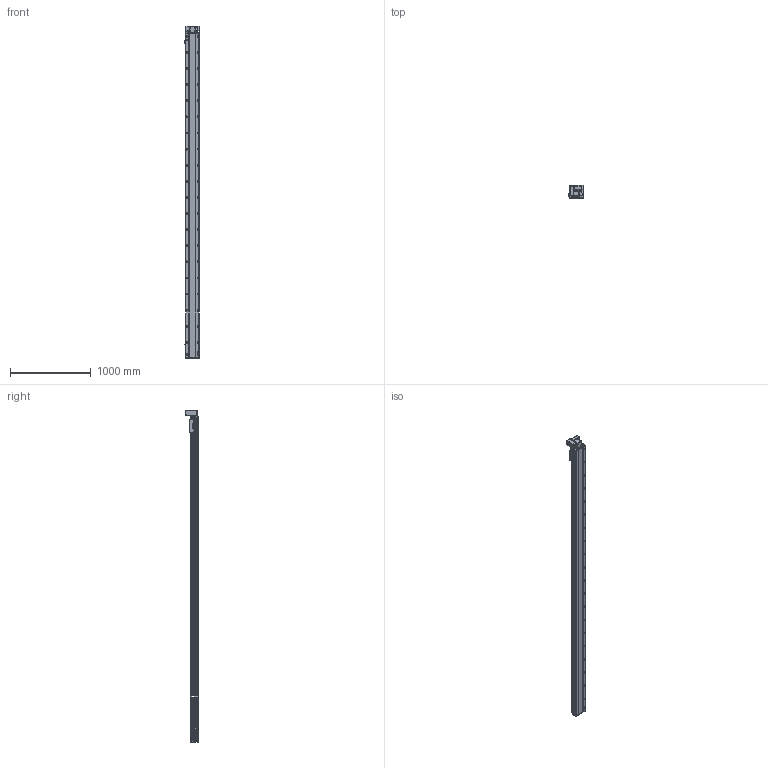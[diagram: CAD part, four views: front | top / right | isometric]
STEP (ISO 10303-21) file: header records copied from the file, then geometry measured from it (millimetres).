
FILE_DESCRIPTION (( 'STEP AP214' ), '1' );
FILE_NAME ('RTB17S-XX-3750-LW-M40-C4.STEP', '2025-12-11T07:26:09', ( '' ), ( '' ), 'SwSTEP 2.0', 'SolidWorks 2018', '' );
FILE_SCHEMA (( 'AUTOMOTIVE_DESIGN' ));
Length unit declared in the file: millimetre
Products named in the file (14): RTB17-R-011菁釱^RTB17S-XX-XX-LW-M40-C4; RTH13-BL-012覜茼え俋离^RTB17S-XX-XX-LW-M40-C4; RTB17S-L-007奻裔^RTB17S-XX-XX-LW-M40-C4; RTB14-L-005P--轴承塑胶压盖^RTB17S-LW-皮带座装配-400W_RTB17S-XX-XX-LW-M40-C4; RTB14-L-018P^RTB17S-LW-々湍釱蚾饜-400W_RTB17S-XX-XX-LW-M40-C4; RTB17S-L-001耜醱啣^RTB17S-XX-XX-LW-M40-C4; RTB17S-L-014-T20--々湍釱^RTB17S-LW-々湍釱蚾饜-400W_RTB17S-XX-XX-LW-M40-C4; RTB14-L-017P^RTB17S-LW-々湍釱蚾饜-400W_RTB17S-XX-XX-LW-M40-C4; RTB17S-L-004佪裝蹟譫蟀諉釱^RTB17S-XX-XX-LW-M40-C4; RTB17S-LW-々湍釱蚾饜-400W^RTB17S-XX-XX-LW-M40-C4; 400W侜督萇儂^RTB17S-XX-XX-LW-M40-C4; RTB14-L-008-M20--萇儂啣^RTB17S-LW-々湍釱蚾饜-400W_RTB17S-XX-XX-LW-M40-C4; OMRON EE-SX672 传感器^RTB17S-XX-XX-LW-M40-C4; RTB17S-XX-3750-LW-M40-C4
Assembly tree (16 placements, depth 3):
  RTB17S-XX-3750-LW-M40-C4
    RTB17-R-011菁釱^RTB17S-XX-XX-LW-M40-C4
    RTB17S-L-007奻裔^RTB17S-XX-XX-LW-M40-C4
    OMRON EE-SX672 传感器^RTB17S-XX-XX-LW-M40-C4  x3
    RTB17S-L-001耜醱啣^RTB17S-XX-XX-LW-M40-C4
    400W侜督萇儂^RTB17S-XX-XX-LW-M40-C4
    RTB17S-L-004佪裝蹟譫蟀諉釱^RTB17S-XX-XX-LW-M40-C4
    RTH13-BL-012覜茼え俋离^RTB17S-XX-XX-LW-M40-C4
    RTB17S-LW-々湍釱蚾饜-400W^RTB17S-XX-XX-LW-M40-C4
      RTB17S-L-014-T20--々湍釱^RTB17S-LW-々湍釱蚾饜-400W_RTB17S-XX-XX-LW-M40-C4
      RTB14-L-005P--轴承塑胶压盖^RTB17S-LW-皮带座装配-400W_RTB17S-XX-XX-LW-M40-C4
      RTB14-L-008-M20--萇儂啣^RTB17S-LW-々湍釱蚾饜-400W_RTB17S-XX-XX-LW-M40-C4
      RTB14-L-017P^RTB17S-LW-々湍釱蚾饜-400W_RTB17S-XX-XX-LW-M40-C4  x2
      RTB14-L-018P^RTB17S-LW-々湍釱蚾饜-400W_RTB17S-XX-XX-LW-M40-C4
Bounding box: 186 x 160.5 x 4122.5 mm (x, y, z)
Volume: 34800353.1 mm3; surface area: 3943616.1 mm2
Topology: 15 solids, 15 shells, 2429 faces, 6843 edges, 4473 vertices
Faces by surface type: plane 1096, cylinder 885, bspline 301, cone 139, torus 8
Entity records: 73385 total; most frequent: CARTESIAN_POINT 21048, ORIENTED_EDGE 10530, DIRECTION 9656, EDGE_CURVE 5265, VERTEX_POINT 3461, AXIS2_PLACEMENT_3D 3391, VECTOR 2874, LINE 2874
